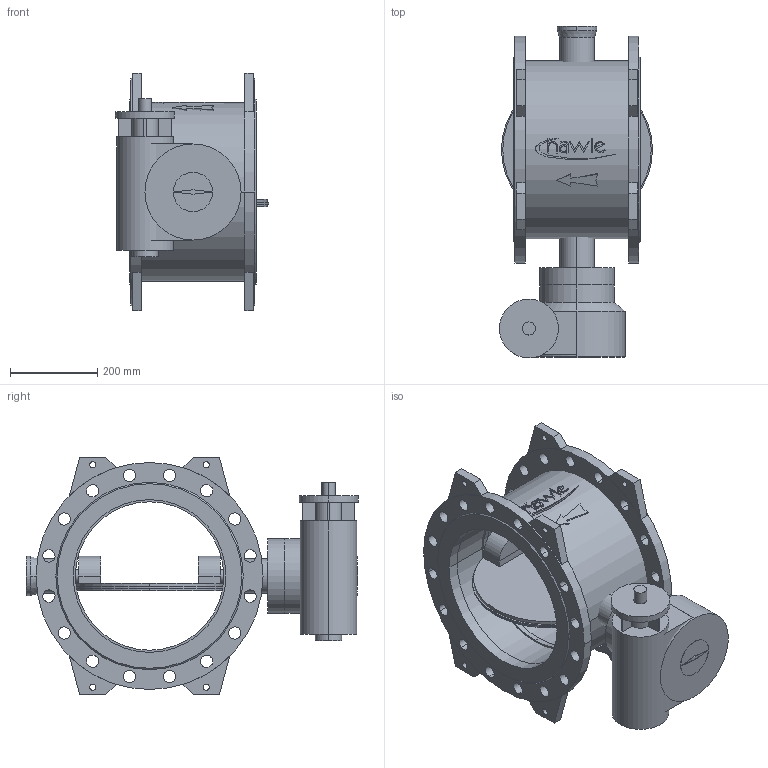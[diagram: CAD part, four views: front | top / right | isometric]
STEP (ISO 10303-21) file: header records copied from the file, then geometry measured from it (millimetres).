
FILE_DESCRIPTION(('STEP AP214'),'1');
FILE_NAME('S:/EK/USER/CAT6/3DHomepage_27-04-2012/neu_08-01-2013/9881K/9881K_PN16_DN350.STP','2013-02-26T15:24:51',(' '),(' '),'Spatial InterOp 3D',' ',' ');
FILE_SCHEMA(('automotive_design'));
Length unit declared in the file: millimetre
Products named in the file (48): 3D-Objekt
Bounding box: 350.5 x 760.5 x 544 mm (x, y, z)
Volume: 29931180.4 mm3; surface area: 2524001.9 mm2
Topology: 48 solids, 48 shells, 387 faces, 864 edges, 576 vertices
Faces by surface type: plane 198, cylinder 181, cone 8
Entity records: 15262 total; most frequent: DIRECTION 2112, CARTESIAN_POINT 1875, ORIENTED_EDGE 1728, EDGE_CURVE 864, AXIS2_PLACEMENT_3D 813, VERTEX_POINT 576, LINE 486, VECTOR 486
